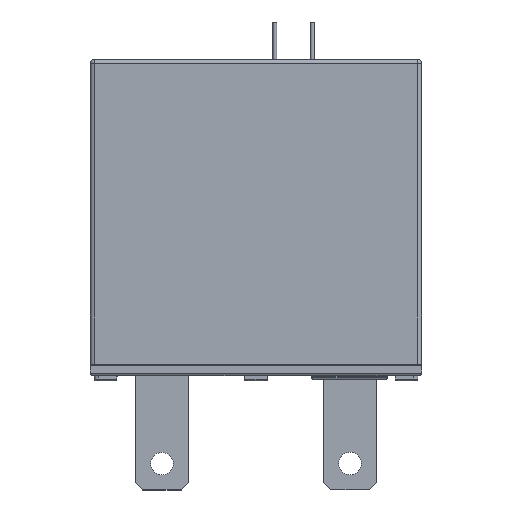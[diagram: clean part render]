
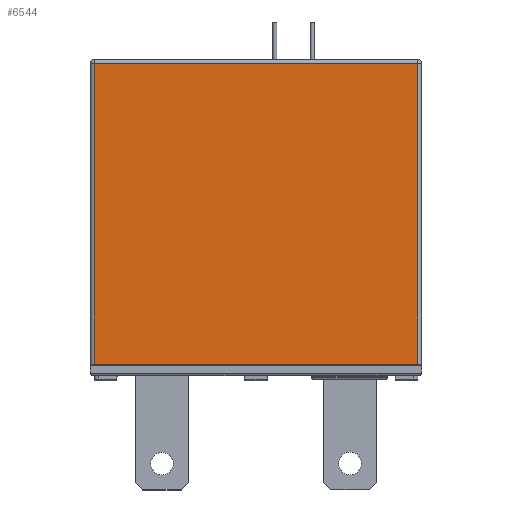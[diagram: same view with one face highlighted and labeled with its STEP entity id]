
A CAD part, top view. The second image highlights one B-rep face of the part: STEP entity #6544.
In plain terms, the highlighted planar face has unit normal (0, 0, 1).
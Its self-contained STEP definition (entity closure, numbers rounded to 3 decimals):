
#2032=DIRECTION('',(1.,0.,0.));
#2033=VECTOR('',#2032,43.);
#2034=CARTESIAN_POINT('',(-21.5,1.5,9.25));
#2035=LINE('',#2034,#2033);
#2697=DIRECTION('',(0.,-1.,0.));
#2698=VECTOR('',#2697,40.);
#2699=CARTESIAN_POINT('',(21.5,41.5,9.25));
#2700=LINE('',#2699,#2698);
#2704=DIRECTION('',(0.,-1.,0.));
#2705=VECTOR('',#2704,40.);
#2706=CARTESIAN_POINT('',(-21.5,41.5,9.25));
#2707=LINE('',#2706,#2705);
#2711=DIRECTION('',(1.,0.,0.));
#2712=VECTOR('',#2711,43.);
#2713=CARTESIAN_POINT('',(-21.5,41.5,9.25));
#2714=LINE('',#2713,#2712);
#3997=CARTESIAN_POINT('',(21.5,1.5,9.25));
#3999=VERTEX_POINT('',#3997);
#4000=CARTESIAN_POINT('',(21.5,41.5,9.25));
#4001=VERTEX_POINT('',#4000);
#4028=CARTESIAN_POINT('',(-21.5,1.5,9.25));
#4030=VERTEX_POINT('',#4028);
#4032=CARTESIAN_POINT('',(-21.5,41.5,9.25));
#4033=VERTEX_POINT('',#4032);
#6531=CARTESIAN_POINT('',(-22.,1.5,9.25));
#6532=DIRECTION('',(0.,0.,1.));
#6533=DIRECTION('',(1.,0.,0.));
#6534=AXIS2_PLACEMENT_3D('',#6531,#6532,#6533);
#6535=PLANE('',#6534);
#6536=ORIENTED_EDGE('',*,*,#6522,.T.);
#6537=ORIENTED_EDGE('',*,*,#5841,.F.);
#6539=ORIENTED_EDGE('',*,*,#6538,.F.);
#6541=ORIENTED_EDGE('',*,*,#6540,.T.);
#6542=EDGE_LOOP('',(#6536,#6537,#6539,#6541));
#6543=FACE_OUTER_BOUND('',#6542,.F.);
#6544=ADVANCED_FACE('',(#6543),#6535,.T.);
#5841=EDGE_CURVE('',#4030,#3999,#2035,.T.);
#6522=EDGE_CURVE('',#4001,#3999,#2700,.T.);
#6538=EDGE_CURVE('',#4033,#4030,#2707,.T.);
#6540=EDGE_CURVE('',#4033,#4001,#2714,.T.);
